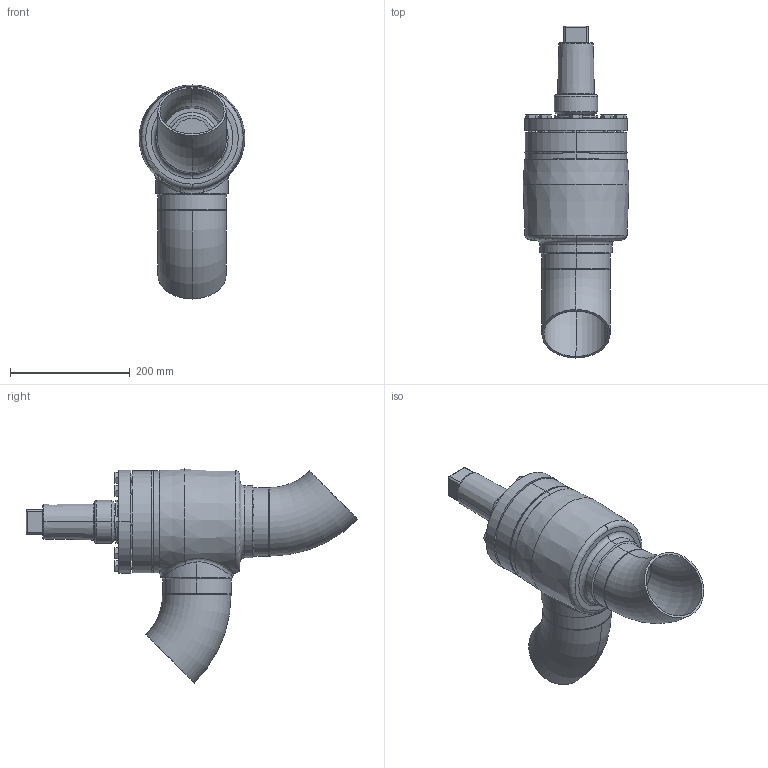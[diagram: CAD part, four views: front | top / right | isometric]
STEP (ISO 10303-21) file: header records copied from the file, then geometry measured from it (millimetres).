
FILE_DESCRIPTION (( 'STEP AP214' ), '1' );
FILE_NAME ('RVAK27300D19-DN100_R1_PS40.STEP', '2007-01-08T09:22:30', ( 'Herr Grams' ), ( 'AWP GmbH' ), 'SwSTEP 2.0', 'SolidWorks 2002296', '' );
FILE_SCHEMA (( 'AUTOMOTIVE_DESIGN' ));
Length unit declared in the file: millimetre
Products named in the file (13): RVAK27300D19-DN100_R1_PS40; RVA29300E19_Deck-Schr-DN100_Standard; Deckel29300E19-DN100_Standard; Sechskantschraube-DIN933_M12x 35; Kappe16402_DN080-100_Standard; Gehäuse-kpl16300-DN100_R1_Standard; Gehäuse-kpl16400-DN100_R1_Standard; Kopfstück16300-DN100_Standard; Gehäuse16400-DN100_Standard; bead-DN100-1_Standard; bead-DN100-3_Standard; bead-DN100-2_Standard; Rohrbogen 45°_Rohrbogen-DN100-45°
Assembly tree (20 placements, depth 4):
  RVAK27300D19-DN100_R1_PS40
    Kappe16402_DN080-100_Standard
    RVA29300E19_Deck-Schr-DN100_Standard
      Sechskantschraube-DIN933_M12x 35  x8
      Deckel29300E19-DN100_Standard
    Gehäuse-kpl16300-DN100_R1_Standard
      bead-DN100-2_Standard
      Gehäuse-kpl16400-DN100_R1_Standard
        Kopfstück16300-DN100_Standard
        Gehäuse16400-DN100_Standard
        bead-DN100-1_Standard
      Rohrbogen 45°_Rohrbogen-DN100-45°  x2
      bead-DN100-3_Standard
Bounding box: 176.38 x 553.89 x 357.12 mm (x, y, z)
Volume: 3387378.7 mm3; surface area: 629095 mm2
Topology: 17 solids, 17 shells, 374 faces, 800 edges, 483 vertices
Faces by surface type: cone 132, plane 111, cylinder 91, torus 22, bspline 18
Entity records: 18686 total; most frequent: CARTESIAN_POINT 13635, DIRECTION 943, ORIENTED_EDGE 848, EDGE_CURVE 424, AXIS2_PLACEMENT_3D 415, VERTEX_POINT 265, EDGE_LOOP 239, CIRCLE 214
